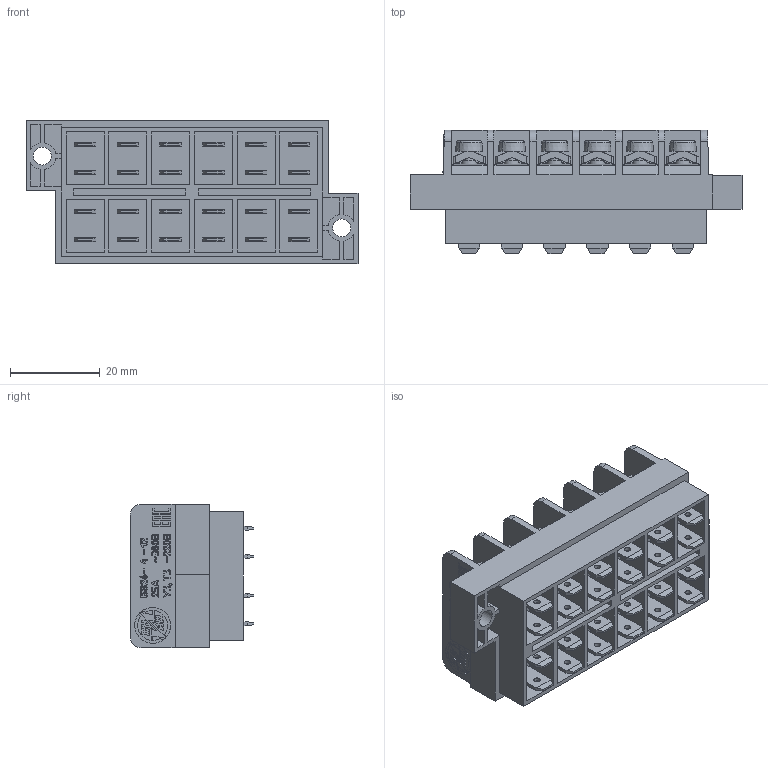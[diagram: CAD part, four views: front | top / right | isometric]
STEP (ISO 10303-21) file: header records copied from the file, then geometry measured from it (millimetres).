
FILE_DESCRIPTION(('STEP AP214'), '1');
FILE_NAME('栖闉罻 12', '2022-04-05T03:34:14', (''), (''), 'ASCON STEP Converter 1.6', 'ASCON Math Kernel', '');
FILE_SCHEMA(('AUTOMOTIVE_DESIGN { 1 0 10303 214 3 1 1}'));
Length unit declared in the file: millimetre
Products named in the file (1): 襠窏.687224.033
Bounding box: 74 x 27.55 x 32 mm (x, y, z)
Volume: 28327.1 mm3; surface area: 25955.5 mm2
Topology: 25 solids, 25 shells, 3781 faces, 10494 edges, 6882 vertices
Faces by surface type: plane 2520, cylinder 777, bspline 316, cone 96, torus 72
Full cylindrical faces by diameter (mm): 0.4 x1, 0.51 x1, 0.512 x1, 1.4 x24, 2.45 x12, 2.9 x12, 3.5 x12, 4 x2
Entity records: 169655 total; most frequent: CARTESIAN_POINT 46179, ORIENTED_EDGE 20754, DIRECTION 17047, EDGE_CURVE 10377, LINE 7039, VECTOR 7039, VERTEX_POINT 6888, AXIS2_PLACEMENT_3D 5004
